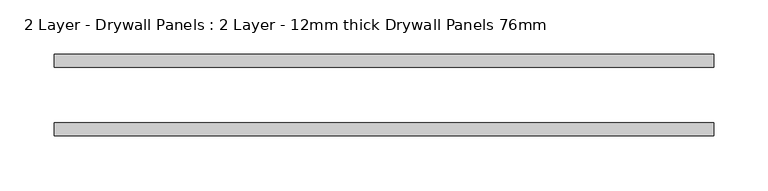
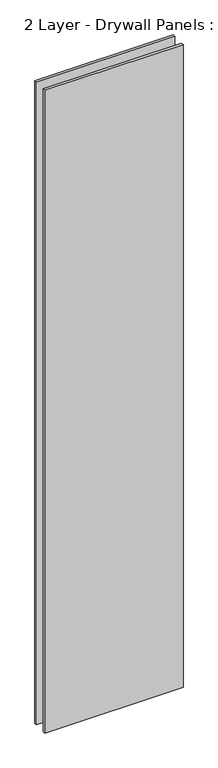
"""IFC4 building model written with IfcOpenShell, lengths in millimetres: plate geometry, 2 Layer - Drywall Panels : 2 Layer - 12mm thick Drywall Panels 76mm."""

from ifc_helpers import new_model, si_unit, origin, origin_with_axes, place, context, project, spatial, polyline, outline, extrude, source, transform, mapped, element, save


def plate_2_layer_drywall_panels_2_layer_12mm_thick_drywall_00b88ad9(model_context):
    return source(origin(), model_context, "Body", "SweptSolid", [
        extrude(outline(polyline([(303.1499999, 25.5), (-303.1499999, 25.5), (-303.1499999, 37.5), (303.1499999, 37.5), (303.1499999, 25.5)])), origin_with_axes(), (0.0, 0.0, 1.0), 2979.4),
        extrude(outline(polyline([(303.1499999, -25.5), (303.1499999, -37.5), (-303.1499999, -37.5), (-303.1499999, -25.5), (303.1499999, -25.5)])), origin_with_axes(), (0.0, 0.0, 1.0), 2979.4),
    ])


if __name__ == "__main__":
    model = new_model("IFC4")
    model_context = context("Model", 3, world=origin())
    ifc_project = project(units=[si_unit("LENGTHUNIT", "METRE", prefix="MILLI")], contexts=[model_context])
    site = spatial("IfcSite", under=ifc_project)
    building = spatial("IfcBuilding", under=site)
    placement = place(None, origin())
    plate_2_layer_drywall_panels_2_layer_12mm_thick_drywall_shape = plate_2_layer_drywall_panels_2_layer_12mm_thick_drywall_00b88ad9(model_context)
    element("IfcPlate", 1, ObjectType="2 Layer - Drywall Panels : 2 Layer - 12mm thick Drywall Panels 76mm", at=placement, inside=building, context=model_context, shape_type="MappedRepresentation", body=[
        mapped(plate_2_layer_drywall_panels_2_layer_12mm_thick_drywall_shape, transform((0.0, 0.0, 0.0), x_axis=(1.0, 0.0, 0.0), y_axis=(0.0, 1.0, 0.0), z_axis=(0.0, 0.0, 1.0))),
    ])
    save(model, "model.ifc")
